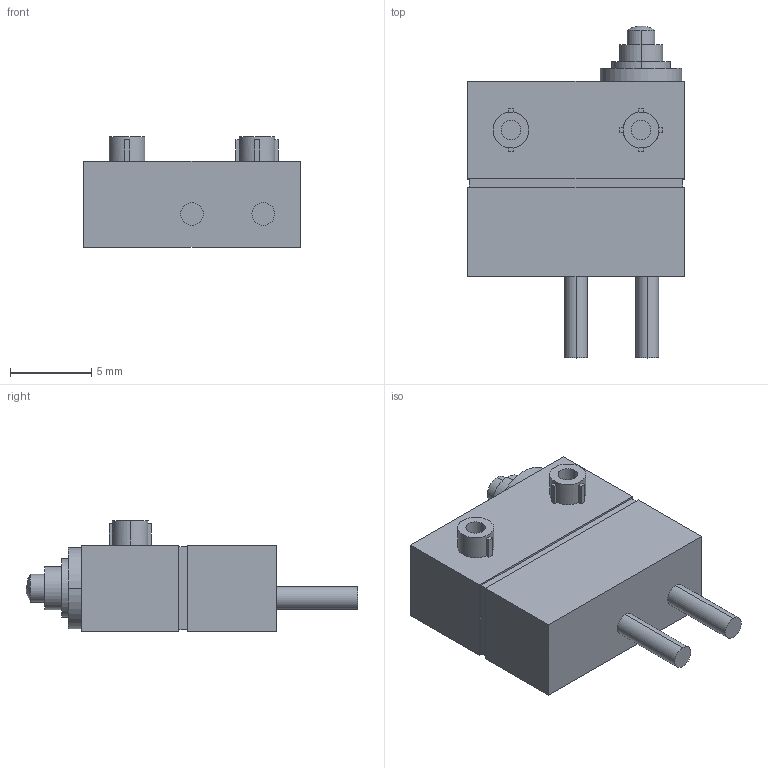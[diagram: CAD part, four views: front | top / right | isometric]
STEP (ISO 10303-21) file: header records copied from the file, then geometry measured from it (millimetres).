
FILE_DESCRIPTION (( 'STEP AP214' ), '1' );
FILE_NAME ('D2AW_R5_ER003MP.step', '2024-05-17T05:53:56', ( 'OSMC1.0 ' ), ( ' ' ), 'SwSTEP 2.0', 'SolidWorks 2002025', '' );
FILE_SCHEMA (( 'AUTOMOTIVE_DESIGN' ));
Length unit declared in the file: millimetre
Products named in the file (3): D2AW_R5_ER003MP; D2AW_R5_ER003MP_BASE; D2AW_R5_ER003MP_BUTTON
Assembly tree (2 placements, depth 2):
  D2AW_R5_ER003MP
    D2AW_R5_ER003MP_BASE
    D2AW_R5_ER003MP_BUTTON
Bounding box: 13.3 x 20.4 x 6.8 mm (x, y, z)
Volume: 881.6 mm3; surface area: 822 mm2
Topology: 2 solids, 2 shells, 75 faces, 178 edges, 119 vertices
Faces by surface type: plane 51, cylinder 22, sphere 2
Entity records: 2389 total; most frequent: DIRECTION 398, CARTESIAN_POINT 377, ORIENTED_EDGE 356, EDGE_CURVE 178, AXIS2_PLACEMENT_3D 140, VERTEX_POINT 119, LINE 118, VECTOR 118
